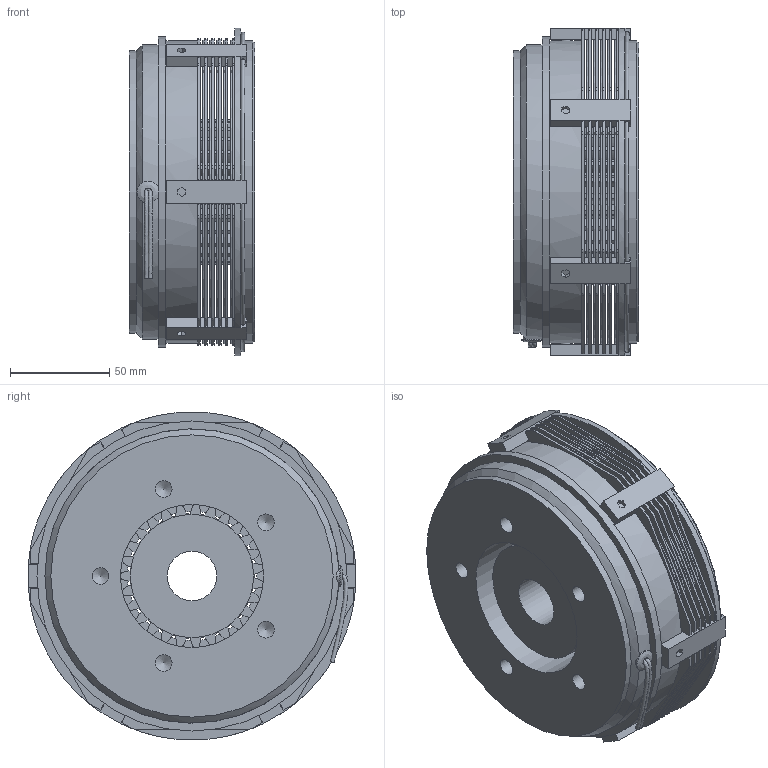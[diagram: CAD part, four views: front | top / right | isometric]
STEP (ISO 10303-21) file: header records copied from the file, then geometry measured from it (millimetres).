
FILE_DESCRIPTION(/* description */ (''),/* implementation_level */ '2;1');
FILE_NAME(/* name */ 'X:\INVENTOR\DISEGNI\05_Friz_Elettmag-Lam\05_06 EC_F\05_01_166_01 EC_F 166\05_06_166_01 EC_F166@STEP.stp',/* time_stamp */ '2020-10-30T10:11:15+01:00',/* author */ ('stefano'),/* organization */ (''),/* preprocessor_version */ 'ST-DEVELOPER v18.1',/* originating_system */ 'Autodesk Inventor 2021',/* authorisation */ '');
FILE_SCHEMA (('AUTOMOTIVE_DESIGN { 1 0 10303 214 3 1 1 }'));
Products named in the file (1): 05_06_166_01 EC_F166
Bounding box: 63.2 x 164.56 x 165 mm (x, y, z)
Volume: 882193.4 mm3; surface area: 269941 mm2
Topology: 3 solids, 9 shells, 1875 faces, 6691 edges, 4363 vertices
Faces by surface type: cylinder 1115, plane 669, torus 61, cone 27, bspline 3
Full cylindrical faces by diameter (mm): 2.5 x6, 4 x1, 4.917 x6, 6 x7, 6.25 x6, 8.376 x5, 25 x1, 62 x1, 72 x1, 78 x2, 108 x1, 117 x1, 132 x2, 142 x1, 148 x1, 152 x2, 156 x1
Entity records: 78443 total; most frequent: CARTESIAN_POINT 15020, DIRECTION 13910, ORIENTED_EDGE 13446, EDGE_CURVE 6723, AXIS2_PLACEMENT_3D 5459, VERTEX_POINT 4376, CIRCLE 3586, LINE 2992
